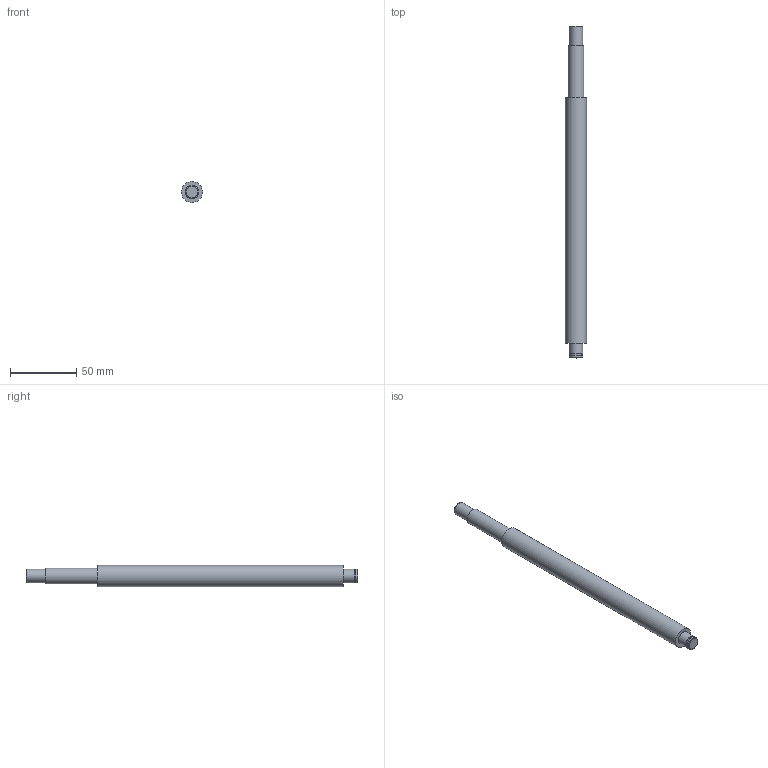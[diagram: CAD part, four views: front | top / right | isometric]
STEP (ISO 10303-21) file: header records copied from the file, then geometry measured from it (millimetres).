
FILE_DESCRIPTION(/* description */ (''),/* implementation_level */ '2;1');
FILE_NAME(/* name */ 'C:\Users\David\Desktop\stepFiles\Profilfuehrung\KUS1605x250.stp',/* time_stamp */ '2018-06-24T15:08:44+02:00',/* author */ ('David'),/* organization */ (''),/* preprocessor_version */ 'ST-DEVELOPER v17',/* originating_system */ 'Autodesk Inventor 2019',/* authorisation */ '');
FILE_SCHEMA (('AUTOMOTIVE_DESIGN { 1 0 10303 214 3 1 1 }'));
Length unit declared in the file: millimetre
Products named in the file (1): SFU1605xvariabel
Bounding box: 16 x 250 x 16 mm (x, y, z)
Volume: 43634.6 mm3; surface area: 11980.1 mm2
Topology: 1 solids, 1 shells, 15 faces, 34 edges, 26 vertices
Faces by surface type: plane 7, cylinder 6, cone 2
Full cylindrical faces by diameter (mm): 9.6 x1, 10 x3, 12 x1, 16 x1
Entity records: 493 total; most frequent: DIRECTION 92, CARTESIAN_POINT 76, ORIENTED_EDGE 68, AXIS2_PLACEMENT_3D 42, EDGE_CURVE 34, CIRCLE 26, VERTEX_POINT 26, EDGE_LOOP 20
